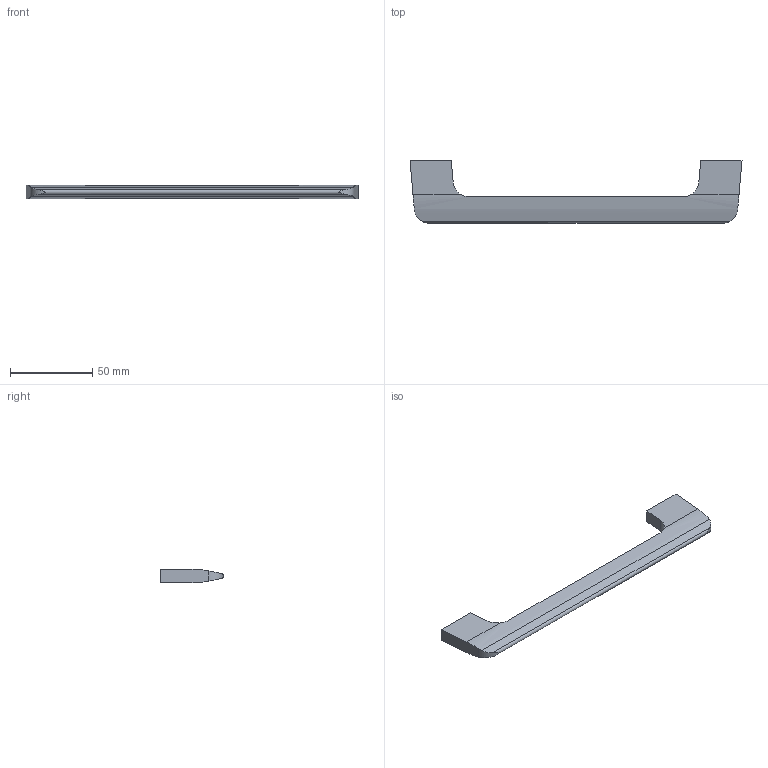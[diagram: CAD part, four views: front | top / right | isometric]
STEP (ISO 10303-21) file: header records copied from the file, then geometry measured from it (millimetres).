
FILE_DESCRIPTION( ( '' ), '1' );
FILE_NAME( 'D:/1.AUTOCAD EXPORT/Group 10/sheet_10_1/115367.stp', '2013-10-21T12:18:53', ( '' ), ( '' ), ' ', ' ', ' ' );
FILE_SCHEMA( ( 'automotive_design' ) );
Length unit declared in the file: millimetre
Products named in the file (1): 1
Bounding box: 202 x 38 x 8 mm (x, y, z)
Volume: 26781.3 mm3; surface area: 11549.8 mm2
Topology: 1 solids, 1 shells, 26 faces, 68 edges, 46 vertices
Faces by surface type: plane 15, cylinder 11
Entity records: 1690 total; most frequent: CARTESIAN_POINT 245, STYLED_ITEM 141, PRESENTATION_STYLE_ASSIGNMENT 141, COLOUR_RGB 141, ORIENTED_EDGE 136, DIRECTION 130, EDGE_CURVE 68, CURVE_STYLE 68
